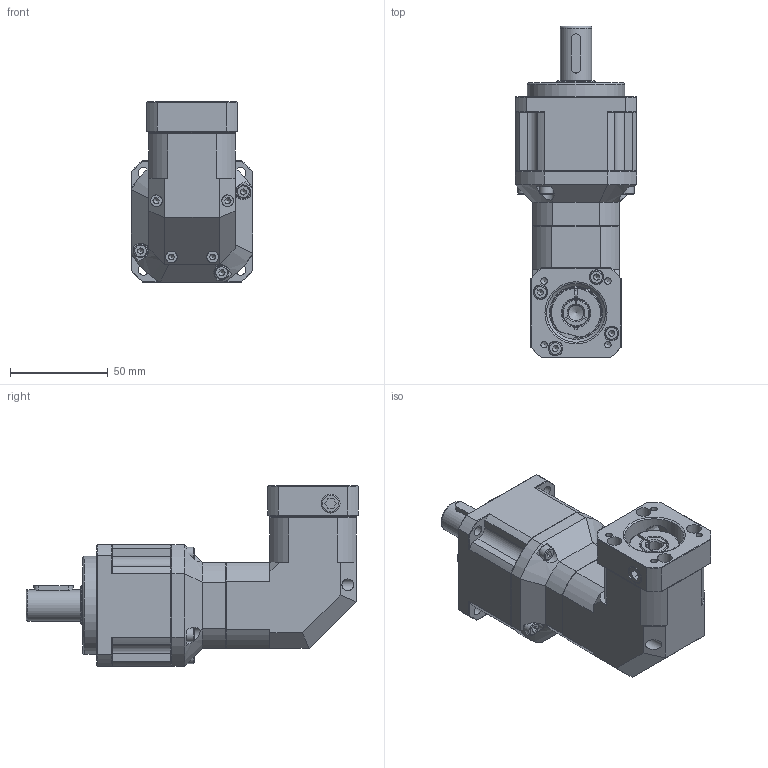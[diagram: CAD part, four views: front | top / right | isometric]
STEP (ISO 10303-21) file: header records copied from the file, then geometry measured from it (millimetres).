
FILE_DESCRIPTION((''),'2;1');
FILE_NAME('C:\Work\감속기 카다로그 도면\ATG Reducer(홈페이지)\KSBL\KSBL-62-2.stp','2014-05-27T14:08:36',('young'),(''),'Autodesk Inventor 2012','Autodesk Inventor 2012','');
FILE_SCHEMA(('AUTOMOTIVE_DESIGN { 1 0 10303 214 1 1 1 1 }'));
Length unit declared in the file: millimetre
Products named in the file (1): KSBL-62-2
Bounding box: 62 x 169.5 x 92 mm (x, y, z)
Volume: 338822.6 mm3; surface area: 87155.1 mm2
Topology: 25 solids, 25 shells, 793 faces, 1949 edges, 1253 vertices
Faces by surface type: plane 445, cylinder 167, cone 127, bspline 34, torus 20
Full cylindrical faces by diameter (mm): 2.5 x8, 3 x1, 3.3 x16, 3.5 x1, 4 x16, 4.2 x1, 4.5 x8, 5 x1, 5.5 x5, 6 x4, 7 x12, 7.5 x4, 8 x1, 9.5 x2, 11 x1, 14.2 x1, 14.8 x1, 15 x1, 16 x1, 19.8 x1, 20 x1, 22 x3, 25 x1, 27 x1, 28 x1, 29 x1, 30 x1, 32 x4, 34 x1, 35 x2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
Entity records: 36797 total; most frequent: CARTESIAN_POINT 19443, DIRECTION 3468, ORIENTED_EDGE 3370, EDGE_CURVE 1685, AXIS2_PLACEMENT_3D 1320, VERTEX_POINT 1187, EDGE_LOOP 1088, VECTOR 828
